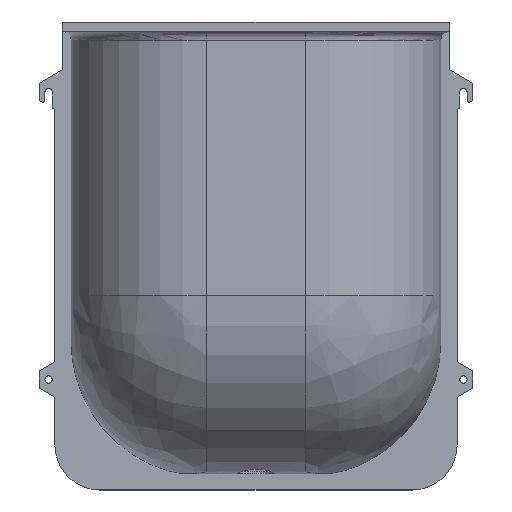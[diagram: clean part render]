
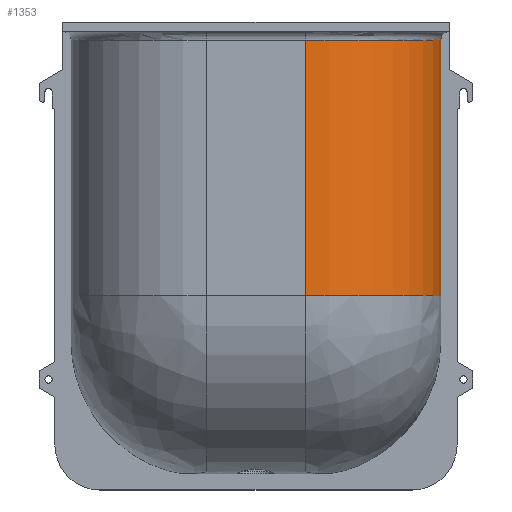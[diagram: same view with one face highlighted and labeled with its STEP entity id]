
A CAD part, top view. The second image highlights one B-rep face of the part: STEP entity #1353.
In plain terms, the highlighted cylindrical face has radius 300 mm (diameter 600 mm), a partial arc.
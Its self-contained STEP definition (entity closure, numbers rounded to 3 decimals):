
#109=CIRCLE('',#1462,300.);
#116=CIRCLE('',#1476,300.);
#214=LINE('',#2516,#348);
#215=LINE('',#2519,#349);
#348=VECTOR('',#1769,567.);
#349=VECTOR('',#1774,567.);
#425=FACE_OUTER_BOUND('',#503,.T.);
#503=EDGE_LOOP('',(#1121,#1122,#1123,#1124));
#566=VERTEX_POINT('',#2021);
#679=VERTEX_POINT('',#2471);
#680=VERTEX_POINT('',#2473);
#689=VERTEX_POINT('',#2515);
#835=EDGE_CURVE('',#679,#680,#109,.T.);
#852=EDGE_CURVE('',#689,#680,#214,.T.);
#854=EDGE_CURVE('',#679,#566,#215,.T.);
#855=EDGE_CURVE('',#566,#689,#116,.T.);
#1121=ORIENTED_EDGE('',*,*,#835,.F.);
#1122=ORIENTED_EDGE('',*,*,#854,.T.);
#1123=ORIENTED_EDGE('',*,*,#855,.T.);
#1124=ORIENTED_EDGE('',*,*,#852,.T.);
#1310=CYLINDRICAL_SURFACE('',#1475,300.);
#1353=ADVANCED_FACE('',(#425),#1310,.T.);
#1462=AXIS2_PLACEMENT_3D('',#2474,#1736,#1737);
#1475=AXIS2_PLACEMENT_3D('',#2518,#1772,#1773);
#1476=AXIS2_PLACEMENT_3D('',#2520,#1775,#1776);
#1736=DIRECTION('center_axis',(0.,1.,0.));
#1737=DIRECTION('ref_axis',(1.,0.,0.));
#1769=DIRECTION('',(0.,1.,0.));
#1772=DIRECTION('center_axis',(0.,-1.,0.));
#1773=DIRECTION('ref_axis',(0.707,0.,0.707));
#1774=DIRECTION('',(0.,-1.,0.));
#1775=DIRECTION('center_axis',(0.,1.,0.));
#1776=DIRECTION('ref_axis',(0.,0.,1.));
#2021=CARTESIAN_POINT('',(110.,-607.,400.));
#2471=CARTESIAN_POINT('',(110.,-40.,400.));
#2473=CARTESIAN_POINT('',(410.,-40.,100.));
#2474=CARTESIAN_POINT('Origin',(110.,-40.,100.));
#2515=CARTESIAN_POINT('',(410.,-607.,100.));
#2516=CARTESIAN_POINT('',(410.,-220.762,100.));
#2518=CARTESIAN_POINT('Origin',(110.,-220.762,100.));
#2519=CARTESIAN_POINT('',(110.,-220.762,400.));
#2520=CARTESIAN_POINT('Origin',(110.,-607.,100.));
